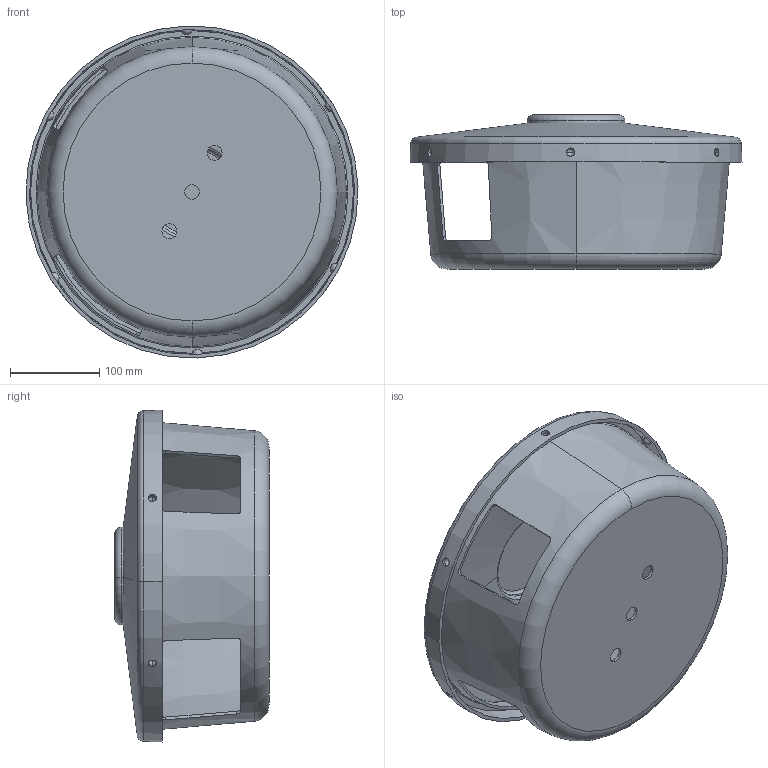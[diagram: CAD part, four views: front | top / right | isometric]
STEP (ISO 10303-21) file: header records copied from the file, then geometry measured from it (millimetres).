
FILE_DESCRIPTION (( 'STEP AP214' ), '1' );
FILE_NAME ('295231.STEP', '2024-05-28T16:34:41', ( '' ), ( '' ), 'SwSTEP 2.0', 'SolidWorks 2022', '' );
FILE_SCHEMA (( 'AUTOMOTIVE_DESIGN' ));
Length unit declared in the file: inch
Products named in the file (1): 295231
Bounding box: 372.23 x 172.91 x 372.23 mm (x, y, z)
Volume: 1197498.2 mm3; surface area: 699697.2 mm2
Topology: 2 solids, 2 shells, 101 faces, 244 edges, 150 vertices
Faces by surface type: cylinder 28, sphere 24, torus 18, cone 16, plane 15
Entity records: 5252 total; most frequent: CARTESIAN_POINT 1622, DIRECTION 504, ORIENTED_EDGE 440, AXIS2_PLACEMENT_3D 222, EDGE_CURVE 220, VERTEX_POINT 138, EDGE_LOOP 126, CIRCLE 120
